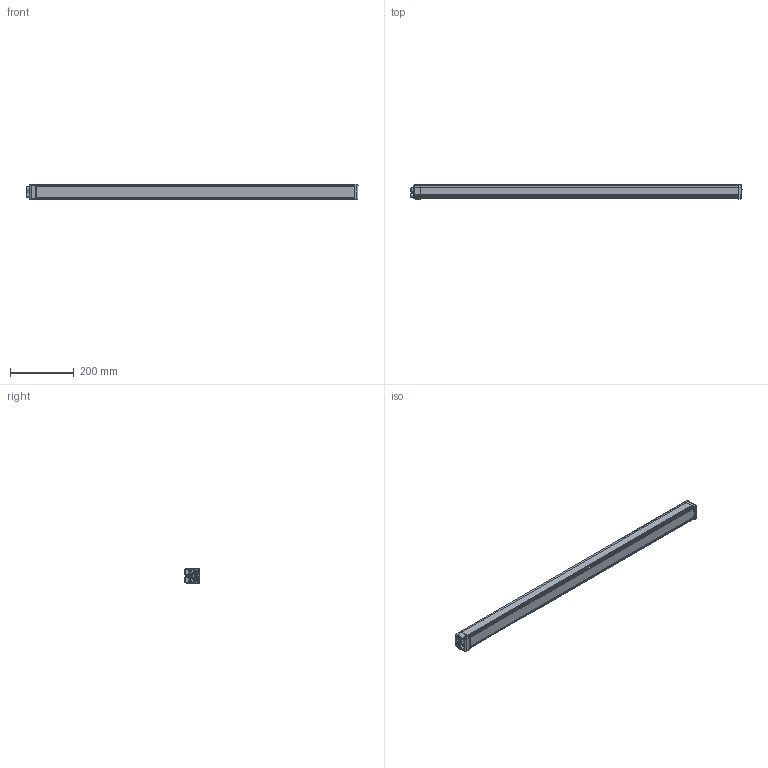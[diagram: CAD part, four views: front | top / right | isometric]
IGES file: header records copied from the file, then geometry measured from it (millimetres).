
Global section: file name: 153-01222_LB 1000 xK-24--Axx-2L5; native system: Autodesk Inventor 2016; preprocessor: unknown; author: AGOUGEON; date: 20160425.121411; units: millimetre
Bounding box: 1045.05 x 45 x 47.63 mm (x, y, z)
Volume: 1531240.1 mm3; surface area: 420986.6 mm2
Topology: 1 solids, 2 shells, 1031 faces, 2718 edges, 1748 vertices
Faces by surface type: bspline 1031
